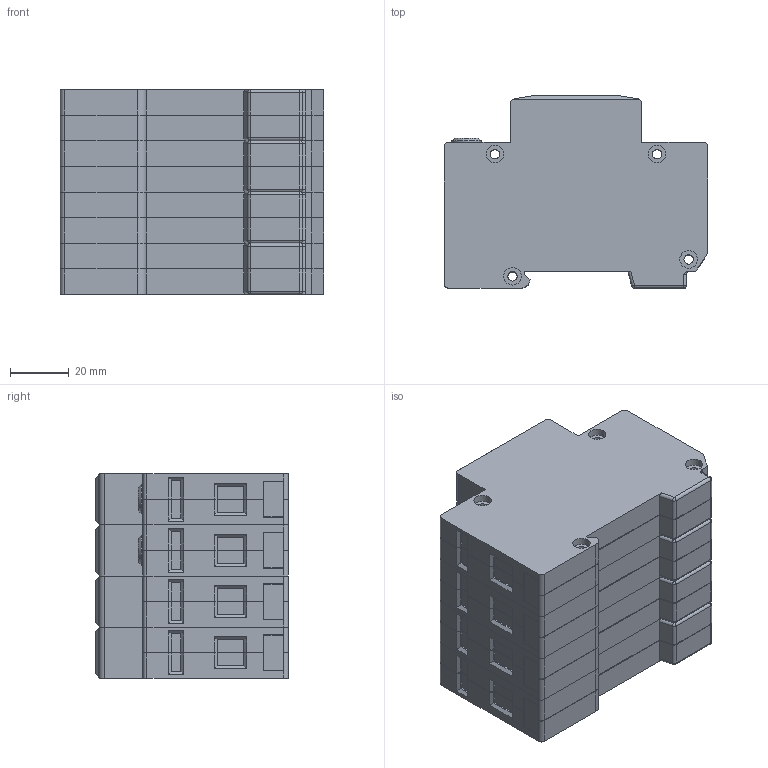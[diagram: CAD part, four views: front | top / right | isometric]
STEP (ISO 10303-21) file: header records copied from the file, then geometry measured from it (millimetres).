
FILE_DESCRIPTION(/* description */ (''),/* implementation_level */ '2;1');
FILE_NAME(/* name */ 'K:\PROJEKTY ROZPRACOVANÉ\MODELY DO KATALOGU\HSA, HLSA 24520, 10007\3D - STEP\H PV_2.stp',/* time_stamp */ '2021-06-10T14:01:55+02:00',/* author */ ('miko'),/* organization */ (''),/* preprocessor_version */ 'ST-DEVELOPER v18.1',/* originating_system */ 'Autodesk Inventor 2022',/* authorisation */ '');
FILE_SCHEMA (('AUTOMOTIVE_DESIGN { 1 0 10303 214 3 1 1 }'));
Length unit declared in the file: millimetre
Products named in the file (6): H PV_2; HLSA; HLSA_1; HLSA (Z); HLSA (Z)_1; DIN 7985 (H) - M5x6-H
Assembly tree (9 placements, depth 3):
  H PV_2
    HLSA  x2
      HLSA_1
      DIN 7985 (H) - M5x6-H
    HLSA (Z)  x2
      HLSA (Z)_1
      DIN 7985 (H) - M5x6-H
Bounding box: 90 x 65.8 x 70 mm (x, y, z)
Volume: 337701.6 mm3; surface area: 72326.2 mm2
Topology: 10 solids, 10 shells, 1156 faces, 3126 edges, 2036 vertices
Faces by surface type: plane 826, cylinder 190, cone 104, sphere 22, torus 14
Full cylindrical faces by diameter (mm): 3.2 x16, 4.6 x6, 5 x6, 6 x32, 10 x2
Entity records: 15843 total; most frequent: CARTESIAN_POINT 2820, ORIENTED_EDGE 2710, DIRECTION 2613, EDGE_CURVE 1355, LINE 1083, VECTOR 1083, VERTEX_POINT 880, AXIS2_PLACEMENT_3D 765
